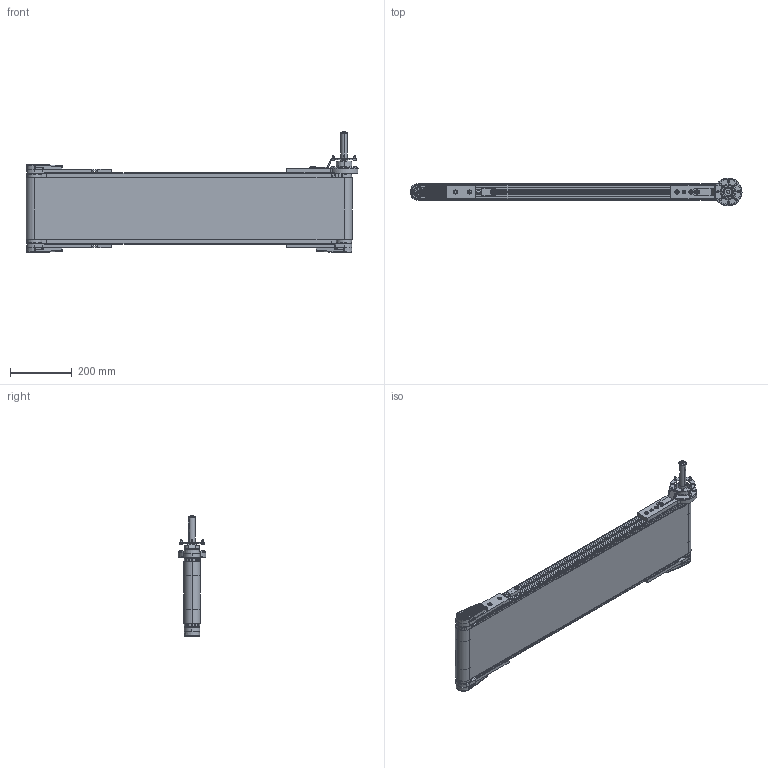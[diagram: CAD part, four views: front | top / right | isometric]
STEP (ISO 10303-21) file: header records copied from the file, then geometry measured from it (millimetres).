
FILE_DESCRIPTION (( 'STEP AP203' ), '1' );
FILE_NAME ('NASTRO_RETTILINEO_TAPPETO.step', '2026-04-21T06:54:53', ( 'Utente Windows' ), ( '' ), 'SwSTEP 2.0', 'SolidWorks 2024', '' );
FILE_SCHEMA (( 'CONFIG_CONTROL_DESIGN' ));
Length unit declared in the file: millimetre
Products named in the file (41): 084.301.000 VITI ALUSIC_084.301.003; BLOCCO_TRAINO_50_STANDARD_WA20_DX; 084.802.065_Default<A macchina>; TAPPETO_STANDARD; TELAIO_50_STANDARD_Default<A macchina>; VITI TSEI UNI 5933_M4x12 UNI 5933; 084.802.060_Default<A macchina>; VITI TSEI UNI 5933_M4x10 UNI 5933; VITI TSEI UNI 5933 INOX_0412UNI5933A2; 084.811.004; 084.802.034_084.802.034; 084.302.000 DADI ALUSIC 13x13_084.302.004; 084.302.000 DADI ALUSIC 13x13-1_084.302.004; BLOCCO_PERNO_50_RINVIO; VITE_RONDELLA_M8X20; VITI TCEI UNI 5931_M4x25 UNI 5931; 084.302.000 DADI ALUSIC 13x13-1_084.302.007; RONDELLE FASCIA LARGA UNI 6593_6.4x24 UNI 6593; 084.802.071; CHIAVETTE_A 5x5x20 UNI 6604-69; LAMIERA_STANDARD; BLOCCO_RINVIO_50_STANDARD; BLOCCO_PERNO_50_WA20; VITI TSEI UNI 5933_M5x12 UNI 5933; 084.807.002_084.807.002; RULLO_50_Default<A macchina>; BLOCCO_BRACCIO_WA20_WA20; NASTRO_RETTILINEO_TAPPETO; 084.810.001; CHIAVETTE_A 6x6x30 UNI 6604-69; VITI TE UNI 5739_M6x16 UNI 5739; 084.802.008; 084.802.017_084.802.017; VITI TE UNI 5739_M6x12 UNI 5739; VITE_DADO_M5X12; 084.303.001; 084.811.009; 084.808.012; BLOCCO_TRAINO_50_STANDARD; 084.802.062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
Assembly tree (81 placements, depth 4):
  NASTRO_RETTILINEO_TAPPETO
    TAPPETO_STANDARD
    TELAIO_50_STANDARD_Default<A macchina>
    LAMIERA_STANDARD
    RULLO_50_Default<A macchina>  x2
    BLOCCO_PERNO_50_WA20
      084.810.001
      084.811.009
      RONDELLE FASCIA LARGA UNI 6593_6.4x24 UNI 6593
      VITI TE UNI 5739_M6x12 UNI 5739
      CHIAVETTE_A 5x5x20 UNI 6604-69
      CHIAVETTE_A 6x6x30 UNI 6604-69  x2
    BLOCCO_TRAINO_50_STANDARD_WA20_DX
      084.807.001_084.807.001
      084.802.034_084.802.034
      084.301.000 VITI ALUSIC_084.301.003  x2
      084.302.000 DADI ALUSIC 13x13-1_084.302.004  x2
      BLOCCO_BRACCIO_WA20_WA20
        084.808.012
        084.802.062
        VITI TE UNI 5739_M6x16 UNI 5739  x4
        084.802.060_Default<A macchina>
        VITI TE UNI 5739_M6x12 UNI 5739  x4
      084.802.065_Default<A macchina>
      VITI TCEI UNI 5931_M4x25 UNI 5931  x2
    BLOCCO_PERNO_50_RINVIO  x3
      084.811.004
      084.810.001
    BLOCCO_TRAINO_50_STANDARD
      084.807.002_084.807.002
      084.802.017_084.802.017
      084.301.000 VITI ALUSIC_084.301.003  x2
      084.302.000 DADI ALUSIC 13x13-1_084.302.004  x2
      VITI TSEI UNI 5933_M4x12 UNI 5933  x4
      084.802.071
      VITI TSEI UNI 5933 INOX_0412UNI5933A2  x2
    BLOCCO_RINVIO_50_STANDARD  x2
      084.807.002_084.807.002
      084.802.017_084.802.017
      084.802.008
      084.301.000 VITI ALUSIC_084.301.003
      084.302.000 DADI ALUSIC 13x13_084.302.004
      VITI TSEI UNI 5933_M4x10 UNI 5933
      084.802.071
    VITE_RONDELLA_M8X20  x3
      084.303.001
      084.301.000 VITI ALUSIC_084.301.003
    VITE_DADO_M5X12  x6
      084.302.000 DADI ALUSIC 13x13-1_084.302.007
      VITI TSEI UNI 5933_M5x12 UNI 5933
Bounding box: 1072 x 90 x 390.5 mm (x, y, z)
Volume: 3527015.9 mm3; surface area: 3176050 mm2
Topology: 114 solids, 117 shells, 5215 faces, 13466 edges, 8605 vertices
Faces by surface type: plane 2454, cylinder 1450, cone 531, bspline 437, torus 299, sphere 44
Entity records: 103539 total; most frequent: CARTESIAN_POINT 29715, ORIENTED_EDGE 14902, DIRECTION 13603, EDGE_CURVE 7451, VERTEX_POINT 4795, AXIS2_PLACEMENT_3D 4725, VECTOR 4153, LINE 4153
